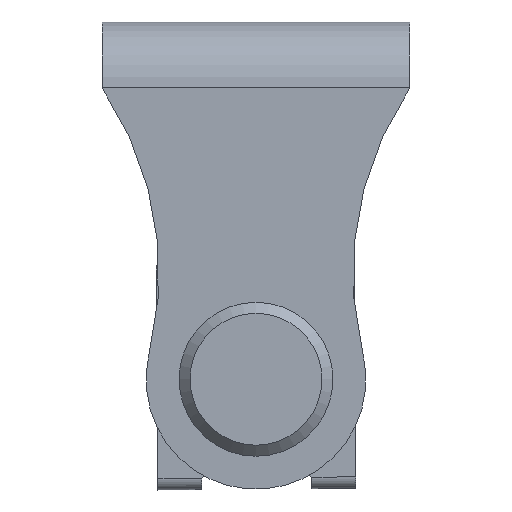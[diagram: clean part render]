
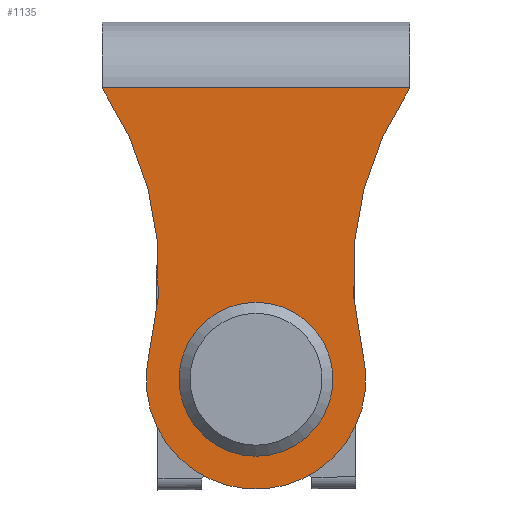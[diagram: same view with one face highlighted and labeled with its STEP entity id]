
A CAD part, left-side view. The second image highlights one B-rep face of the part: STEP entity #1135.
In plain terms, the highlighted planar face has unit normal (-1, 0, 0).
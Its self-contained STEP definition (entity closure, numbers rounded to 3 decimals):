
#51=FACE_BOUND('',#194,.T.);
#67=PLANE('',#1232);
#114=FACE_OUTER_BOUND('',#193,.T.);
#193=EDGE_LOOP('',(#841,#842,#843,#844));
#194=EDGE_LOOP('',(#845));
#254=LINE('',#1708,#347);
#347=VECTOR('',#1335,28.);
#464=CIRCLE('',#1230,5.);
#465=CIRCLE('',#1233,30.);
#466=CIRCLE('',#1234,10.);
#467=CIRCLE('',#1235,30.);
#504=VERTEX_POINT('',#1705);
#505=VERTEX_POINT('',#1707);
#532=VERTEX_POINT('',#1789);
#533=VERTEX_POINT('',#1793);
#534=VERTEX_POINT('',#1795);
#612=EDGE_CURVE('',#504,#505,#254,.T.);
#652=EDGE_CURVE('',#532,#532,#464,.T.);
#653=EDGE_CURVE('',#504,#533,#465,.T.);
#654=EDGE_CURVE('',#533,#534,#466,.T.);
#655=EDGE_CURVE('',#534,#505,#467,.T.);
#841=ORIENTED_EDGE('',*,*,#612,.F.);
#842=ORIENTED_EDGE('',*,*,#653,.T.);
#843=ORIENTED_EDGE('',*,*,#654,.T.);
#844=ORIENTED_EDGE('',*,*,#655,.T.);
#845=ORIENTED_EDGE('',*,*,#652,.T.);
#1135=ADVANCED_FACE('',(#114,#51),#67,.F.);
#1230=AXIS2_PLACEMENT_3D('',#1790,#1428,#1429);
#1232=AXIS2_PLACEMENT_3D('',#1792,#1432,#1433);
#1233=AXIS2_PLACEMENT_3D('',#1794,#1434,#1435);
#1234=AXIS2_PLACEMENT_3D('',#1796,#1436,#1437);
#1235=AXIS2_PLACEMENT_3D('',#1797,#1438,#1439);
#1335=DIRECTION('',(0.,-1.,0.));
#1428=DIRECTION('center_axis',(1.,0.,0.));
#1429=DIRECTION('ref_axis',(0.,-1.,0.));
#1432=DIRECTION('center_axis',(1.,0.,0.));
#1433=DIRECTION('ref_axis',(0.,0.,-1.));
#1434=DIRECTION('center_axis',(1.,0.,0.));
#1435=DIRECTION('ref_axis',(0.,0.827,-0.562));
#1436=DIRECTION('center_axis',(-1.,0.,0.));
#1437=DIRECTION('ref_axis',(0.,-0.97,0.241));
#1438=DIRECTION('center_axis',(1.,0.,0.));
#1439=DIRECTION('ref_axis',(0.,-0.97,0.241));
#1705=CARTESIAN_POINT('',(-12.5,14.,26.5));
#1707=CARTESIAN_POINT('',(-12.5,-14.,26.5));
#1708=CARTESIAN_POINT('',(-12.5,7.,26.5));
#1789=CARTESIAN_POINT('',(-12.5,5.,0.));
#1790=CARTESIAN_POINT('Origin',(-12.5,0.,0.));
#1792=CARTESIAN_POINT('Origin',(-12.5,0.,15.963));
#1793=CARTESIAN_POINT('',(-12.5,9.705,2.412));
#1794=CARTESIAN_POINT('Origin',(-12.5,38.819,9.647));
#1795=CARTESIAN_POINT('',(-12.5,-9.705,2.412));
#1796=CARTESIAN_POINT('Origin',(-12.5,0.,0.));
#1797=CARTESIAN_POINT('Origin',(-12.5,-38.819,9.647));
